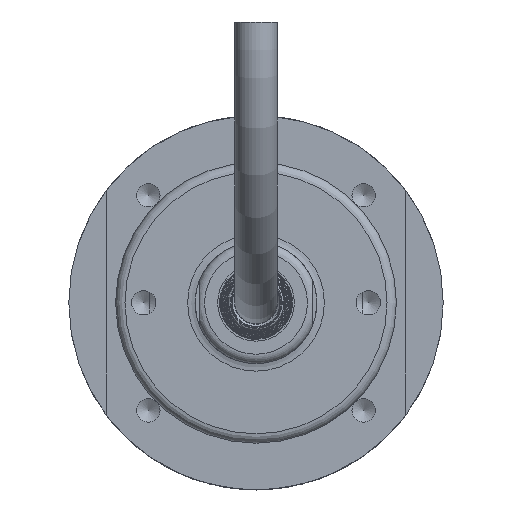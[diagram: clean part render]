
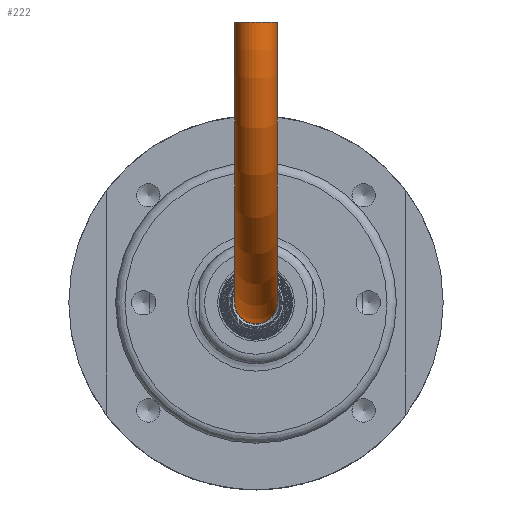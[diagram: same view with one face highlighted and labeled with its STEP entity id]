
A CAD part, front view. The second image highlights one B-rep face of the part: STEP entity #222.
In plain terms, the highlighted toroidal (fillet/blend) face has major radius 30 mm and minor radius 2.25 mm.
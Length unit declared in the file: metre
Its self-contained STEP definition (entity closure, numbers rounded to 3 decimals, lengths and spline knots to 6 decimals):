
#222 = ADVANCED_FACE( '', ( #457, #458 ), #459, .T. );
#457 = FACE_OUTER_BOUND( '', #3776, .T. );
#458 = FACE_OUTER_BOUND( '', #3777, .T. );
#459 = TOROIDAL_SURFACE( '', #3778, 0.03, 0.00225 );
#3776 = EDGE_LOOP( '', ( #11597 ) );
#3777 = EDGE_LOOP( '', ( #11598 ) );
#3778 = AXIS2_PLACEMENT_3D( '', #11599, #11600, #11601 );
#11597 = ORIENTED_EDGE( '', *, *, #12060, .T. );
#11598 = ORIENTED_EDGE( '', *, *, #12061, .F. );
#11599 = CARTESIAN_POINT( '', ( 0., -0.043, 0.03 ) );
#11600 = DIRECTION( '', ( -1., 0., 0. ) );
#11601 = DIRECTION( '', ( 0., 1., 0. ) );
#12060 = EDGE_CURVE( '', #12371, #12371, #12372, .T. );
#12061 = EDGE_CURVE( '', #12373, #12373, #12374, .T. );
#12371 = VERTEX_POINT( '', #13340 );
#12372 = CIRCLE( '', #13341, 0.00225 );
#12373 = VERTEX_POINT( '', #13342 );
#12374 = CIRCLE( '', #13343, 0.00225 );
#13340 = CARTESIAN_POINT( '', ( 0.00225, -0.043, 0. ) );
#13341 = AXIS2_PLACEMENT_3D( '', #17456, #17457, #17458 );
#13342 = CARTESIAN_POINT( '', ( 0., -0.07075, 0.03 ) );
#13343 = AXIS2_PLACEMENT_3D( '', #17459, #17460, #17461 );
#17456 = CARTESIAN_POINT( '', ( 0., -0.043, 0. ) );
#17457 = DIRECTION( '', ( 0., -1., 0. ) );
#17458 = DIRECTION( '', ( 1., 0., 0. ) );
#17459 = CARTESIAN_POINT( '', ( 0., -0.073, 0.03 ) );
#17460 = DIRECTION( '', ( 0., 0., 1. ) );
#17461 = DIRECTION( '', ( 0., 1., 0. ) );
